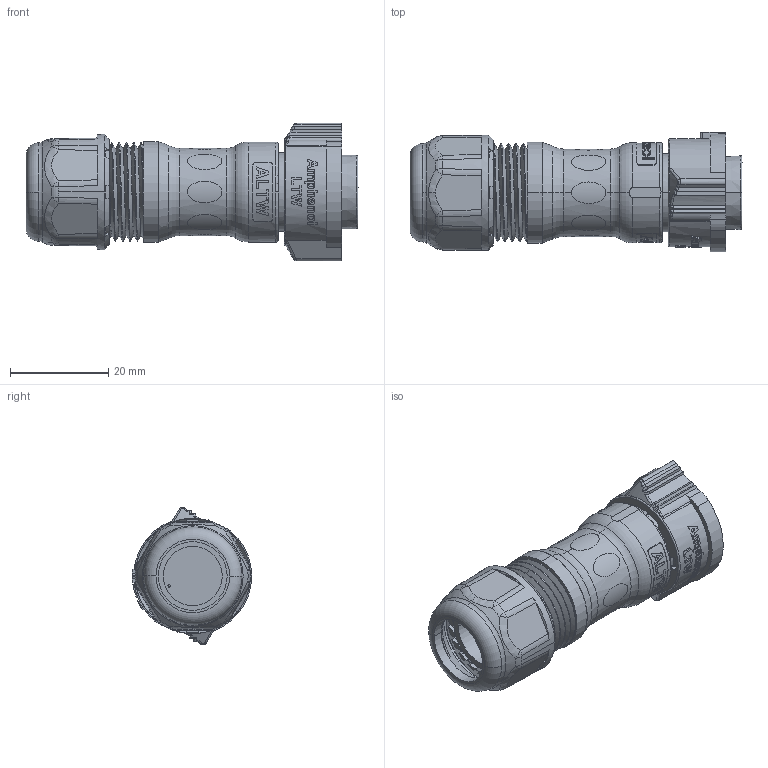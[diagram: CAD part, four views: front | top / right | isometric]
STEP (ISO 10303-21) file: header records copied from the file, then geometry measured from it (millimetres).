
FILE_DESCRIPTION((''),'2;1');
FILE_NAME('CB-04BFMA-QL8LN0','2021-10-19T',('L210038'),(''),'PRO/ENGINEER BY PARAMETRIC TECHNOLOGY CORPORATION, 2017170','PRO/ENGINEER BY PARAMETRIC TECHNOLOGY CORPORATION, 2017170','');
FILE_SCHEMA(('CONFIG_CONTROL_DESIGN'));
Products named in the file (1): CB-04BFMA-QL8LN0
Bounding box: 67.6 x 24.31 x 28 mm (x, y, z)
Volume: 14778.7 mm3; surface area: 12263.8 mm2
Topology: 2 solids, 2 shells, 1301 faces, 3550 edges, 2323 vertices
Faces by surface type: plane 425, extrusion 422, cylinder 185, bspline 135, cone 85, torus 35, sphere 14
Entity records: 64434 total; most frequent: CARTESIAN_POINT 29677, ORIENTED_EDGE 7100, DIRECTION 4492, EDGE_CURVE 3550, VERTEX_POINT 2323, B_SPLINE_CURVE_WITH_KNOTS 2056, VECTOR 1672, AXIS2_PLACEMENT_3D 1410
